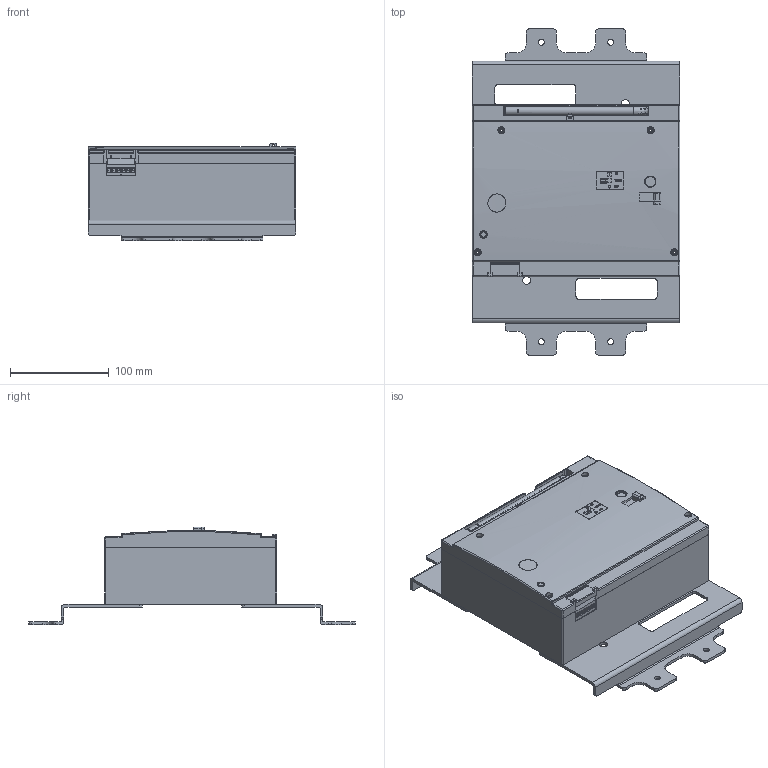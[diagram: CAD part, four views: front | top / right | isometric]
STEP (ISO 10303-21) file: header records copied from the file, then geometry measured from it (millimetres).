
FILE_DESCRIPTION(/* description */ (''),/* implementation_level */ '2;1');
FILE_NAME(/* name */ 'DLX-DC6-1600-1029.prt.step',/* time_stamp */ '2025-02-14T10:30:00+08:00',/* author */ (''),/* organization */ (''),/* preprocessor_version */ 'ST-DEVELOPER v11',/* originating_system */ 'SIEMENS UGS NX 6.0',/* authorisation */ '');
FILE_SCHEMA (('AUTOMOTIVE_DESIGN { 1 0 10303 214 1 1 1 1 }'));
Products named in the file (1): DLX-DC6-1600-1029
Bounding box: 210 x 330 x 99 mm (x, y, z)
Volume: 691013.7 mm3; surface area: 536599.1 mm2
Topology: 16 solids, 16 shells, 4214 faces, 11092 edges, 6793 vertices
Faces by surface type: plane 1906, cylinder 1498, torus 325, sphere 204, bspline 161, cone 65, extrusion 55
Full cylindrical faces by diameter (mm): 0.7 x5, 1 x5, 1.5 x2, 2 x2, 2.3 x1, 2.4 x2, 2.5 x9, 2.7 x14, 2.8 x8, 2.9 x1, 3.1 x4, 3.2 x1, 3.488 x1, 3.5 x7, 3.608 x1, 3.7 x3, 4 x10, 5.1 x1, 5.5 x7, 6 x8, 6.5 x2, 6.8 x4, 7 x10, 7.2 x4, 8 x3, 8.5 x4, 9 x2, 9.2 x1, 9.5 x1, 10 x5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
Entity records: 164992 total; most frequent: CARTESIAN_POINT 34610, DIRECTION 21430, ORIENTED_EDGE 21114, EDGE_CURVE 10557, AXIS2_PLACEMENT_3D 7554, VERTEX_POINT 6691, VECTOR 6322, LINE 6267
